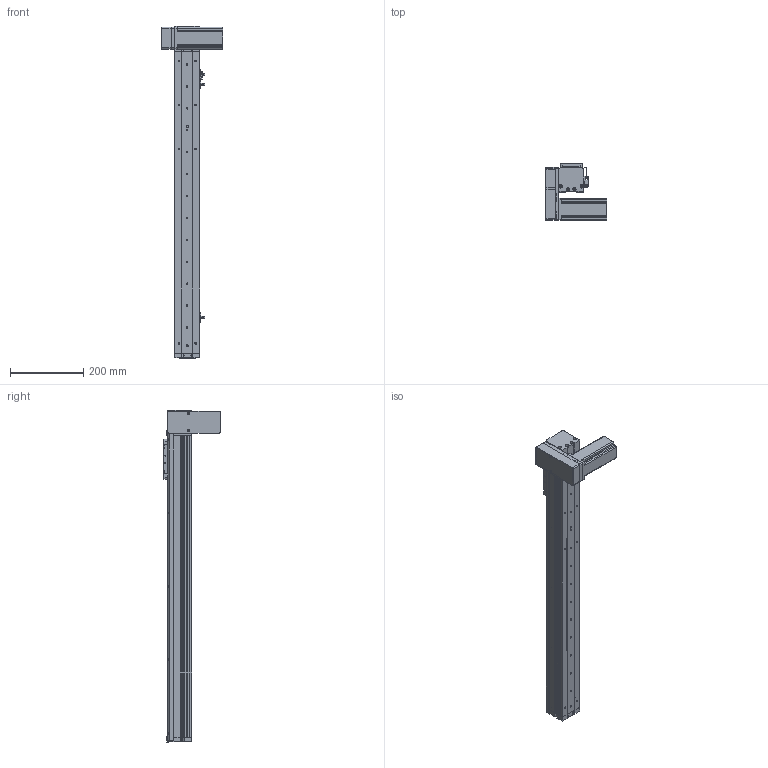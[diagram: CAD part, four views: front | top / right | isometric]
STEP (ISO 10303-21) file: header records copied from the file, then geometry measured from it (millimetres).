
FILE_DESCRIPTION (( 'STEP AP214' ), '1' );
FILE_NAME ('KSD68BS-S650-MRD-CR.STEP', '2019-11-08T03:11:02', ( '微软用户' ), ( '微软中国' ), 'SwSTEP 2.0', 'SolidWorks 2014', '' );
FILE_SCHEMA (( 'AUTOMOTIVE_DESIGN' ));
Length unit declared in the file: millimetre
Products named in the file (14): U倰嫖萇EEㄜSX672; 台达ECMA－C20604AS伺服电机（400W); KSD68BS 650行程底板全封闭; KSD68BS-S650-MRD-CR; 68遵裔啣揤啣1; KSD68BS 650行程盖板全封闭; 68宽单导轨全封闭丝杆传动安装板1防护罩; KSD68BS 650行程侧板全封闭; 68宽单导轨全封闭同步带端板; 68单导轨全封闭同步带电机座右; 68单导轨全封闭同步带安装板; 悵誘欶奻狟殏; 68宽马达安装板连板上折同步带; 感应片68宽全封闭
Assembly tree (17 placements, depth 2):
  KSD68BS-S650-MRD-CR
    KSD68BS 650行程底板全封闭
    台达ECMA－C20604AS伺服电机（400W)
    U倰嫖萇EEㄜSX672  x3
    感应片68宽全封闭
    68宽马达安装板连板上折同步带
    悵誘欶奻狟殏
    68单导轨全封闭同步带安装板
    68单导轨全封闭同步带电机座右
    68宽单导轨全封闭同步带端板
    KSD68BS 650行程侧板全封闭  x2
    68宽单导轨全封闭丝杆传动安装板1防护罩
    68遵裔啣揤啣1  x2
    KSD68BS 650行程盖板全封闭
Bounding box: 167.2 x 155.5 x 908.1 mm (x, y, z)
Volume: 2066661.9 mm3; surface area: 748926.9 mm2
Topology: 18 solids, 18 shells, 1406 faces, 3943 edges, 2535 vertices
Faces by surface type: cylinder 643, plane 627, cone 136
Entity records: 43278 total; most frequent: CARTESIAN_POINT 7215, DIRECTION 6549, ORIENTED_EDGE 6254, EDGE_CURVE 3127, AXIS2_PLACEMENT_3D 2335, VERTEX_POINT 2053, LINE 1879, VECTOR 1879
